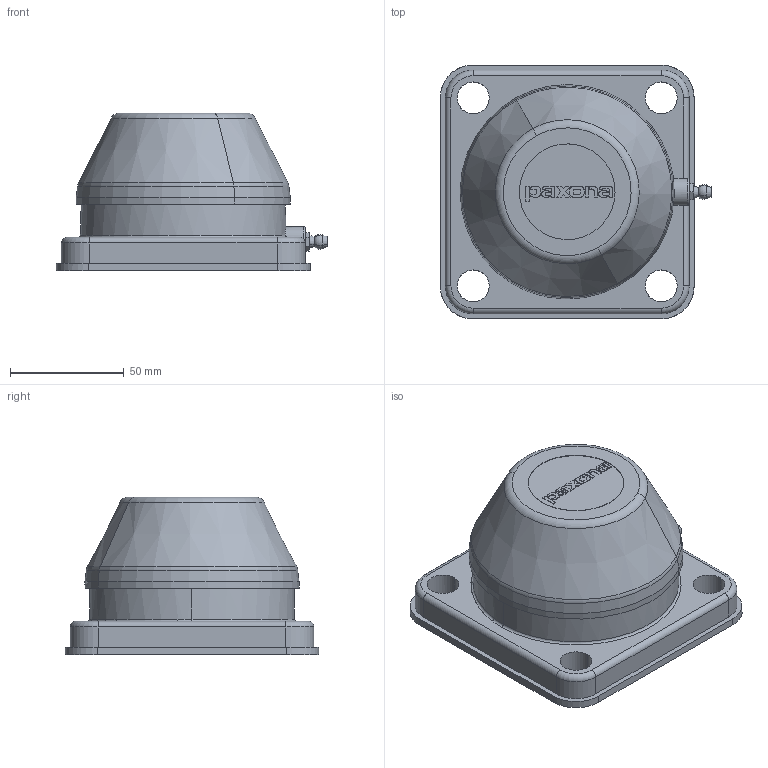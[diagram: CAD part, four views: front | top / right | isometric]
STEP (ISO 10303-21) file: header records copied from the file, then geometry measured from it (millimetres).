
FILE_DESCRIPTION(('CATIA V5 STEP Exchange'),'2;1');
FILE_NAME('C:\Users\dentellad\Desktop\paxona\P84903CP_01.stp','2017-02-06T09:26:20+00:00',('none'),('none'),'Version 5-6 Release 2012','CATIA V5 STEP AP203','none');
FILE_SCHEMA(('CONFIG_CONTROL_DESIGN'));
Length unit declared in the file: millimetre
Products named in the file (1): P84903CP_01
Assembly tree (5 placements, depth 2):
  P84903CP_01
    #58
    #3172
    #7946
    #9179
    #10257
Bounding box: 119.13 x 111.42 x 69.25 mm (x, y, z)
Volume: 247288.4 mm3; surface area: 108605.4 mm2
Topology: 26 solids, 26 shells, 514 faces, 1269 edges, 692 vertices
Faces by surface type: plane 125, cylinder 124, sphere 104, cone 85, torus 61, extrusion 15
Entity records: 15887 total; most frequent: CARTESIAN_POINT 5167, ORIENTED_EDGE 2234, DIRECTION 1841, EDGE_CURVE 1117, AXIS2_PLACEMENT_3D 984, VERTEX_POINT 692, EDGE_LOOP 585, CIRCLE 568
